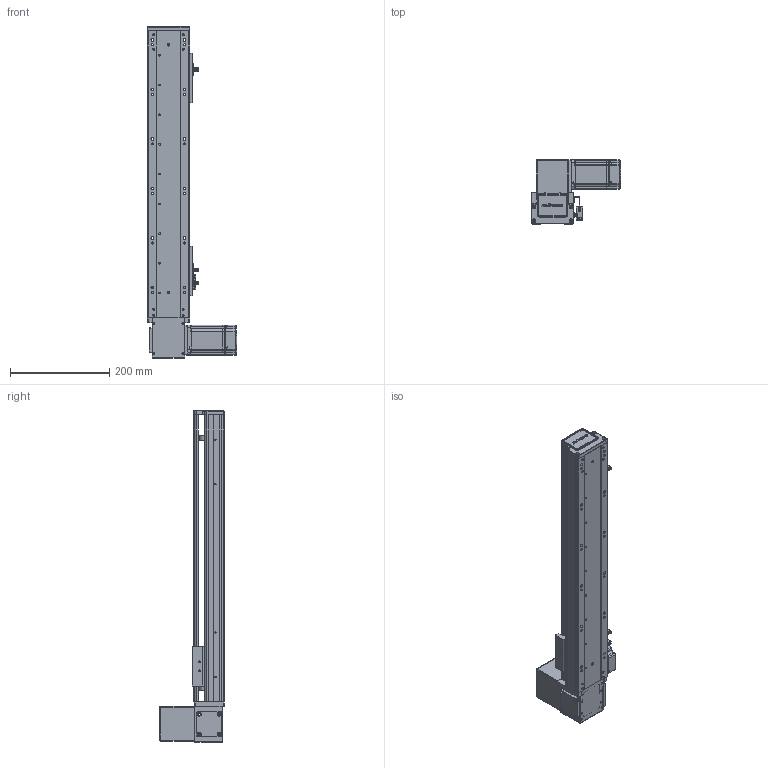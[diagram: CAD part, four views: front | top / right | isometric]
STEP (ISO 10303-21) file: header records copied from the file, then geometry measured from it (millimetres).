
FILE_DESCRIPTION (( 'STEP AP203' ), '1' );
FILE_NAME ('RY80-T-300-UR.SLDASM_400.step', '2021-03-01T02:25:48', ( '盈信电脑' ), ( '东莞市道滘镇水果街19号' ), 'SwSTEP 2.0', 'SolidWorks 2012', '' );
FILE_SCHEMA (( 'CONFIG_CONTROL_DESIGN' ));
Products named in the file (20): RY80-T-300-UR.SLDASM_400; RY80-T萇儂假蚾啣; RY80-T-M4蹟翐2; RY80-T-上下折同步轮盖板; 1; RY80-T肮祭謫奻殏俋欶; RY100-T粣創揤踡裔; RY80-T翋肮祭謫裔啣; 滅袉蝶18-10; RY80-T肮祭湍揤輸1; RY80-T粣創揤踡輸; RY80-T-翋肮祭謫釱; RY80-T肮祭湍揤輸2; RY80-T綴裔啣; 672嫖萇羲壽假蚾釱; RY80俋离覜茼え; 覜茼ん672; RY80-T肮祭謫臏賑輸; RY80-T-300-UR倰第奻裔啣_400; RY80-T-300-UR倰第菁釱_400
Assembly tree (23 placements, depth 2):
  RY80-T-300-UR.SLDASM_400
    RY80-T-300-UR倰第菁釱_400
    RY80-T肮祭謫臏賑輸
    RY80-T-300-UR倰第奻裔啣_400
    RY80-T綴裔啣
    672嫖萇羲壽假蚾釱  x2
    覜茼ん672  x3
    RY80俋离覜茼え
    RY80-T-翋肮祭謫釱
    RY80-T肮祭湍揤輸1
    RY80-T肮祭湍揤輸2
    RY80-T粣創揤踡輸
    滅袉蝶18-10  x2
    RY100-T粣創揤踡裔
    RY80-T翋肮祭謫裔啣
    RY80-T-上下折同步轮盖板
    1
    RY80-T肮祭謫奻殏俋欶
    RY80-T-M4蹟翐2
    RY80-T萇儂假蚾啣
Bounding box: 180 x 130.5 x 670 mm (x, y, z)
Volume: 1413024.9 mm3; surface area: 566625 mm2
Topology: 23 solids, 23 shells, 2434 faces, 6693 edges, 4348 vertices
Faces by surface type: plane 1332, cylinder 907, cone 139, bspline 56
Entity records: 77092 total; most frequent: CARTESIAN_POINT 18253, ORIENTED_EDGE 12030, DIRECTION 11386, EDGE_CURVE 6015, VERTEX_POINT 3952, AXIS2_PLACEMENT_3D 3813, LINE 3760, VECTOR 3760
